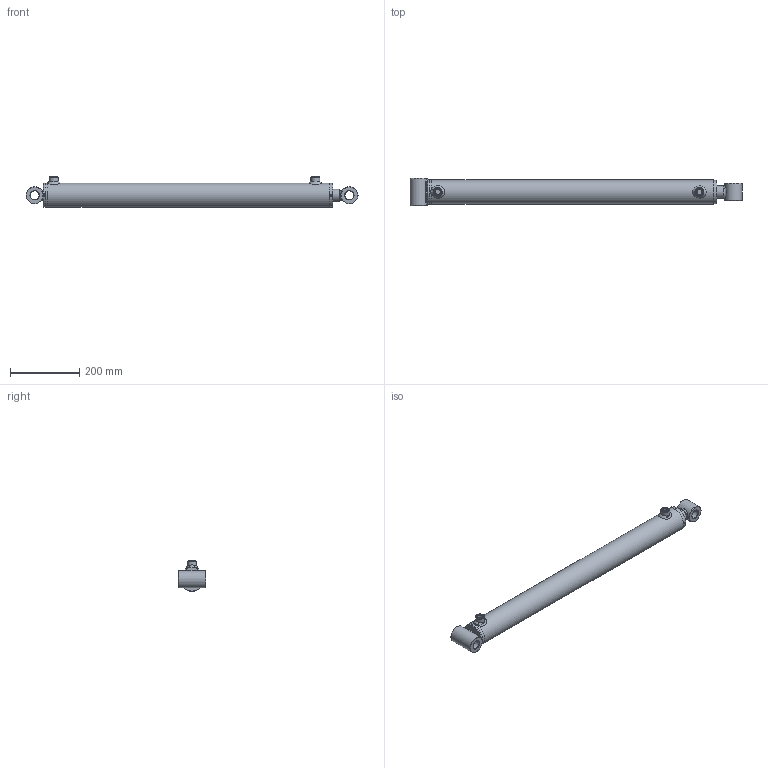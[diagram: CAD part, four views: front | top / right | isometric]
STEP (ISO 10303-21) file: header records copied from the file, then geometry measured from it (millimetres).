
FILE_DESCRIPTION( ( 'Unknown' ), '1' );
FILE_NAME( 'E:/LIBRERIA_3d/CILINDRI/HM2/HM23350700.stp', 'Unknown', ( 'Unknown' ), ( 'Unknown' ), 'PSStep 17.0.49', 'Unknown', ' ' );
FILE_SCHEMA( ( 'AUTOMOTIVE_DESIGN { 1 0 10303 214 1 1 1 1 }' ) );
Length unit declared in the file: millimetre
Products named in the file (26): CG07006035; STL3500700-oa6; Saldatura d'angolo 1-oa4; MAT_PRIMA_TUBO_FT07006000-oa5; CBSC220600; CT00060020; HM03350700; Saldatura con preparazione 1-oa2; Saldatura d'angolo 1-oa3; CF00060070; CBS0600000; CDA0002015; APG0600000; SBL3530700; Assem1; CB25050050; CB25050080; Saldatura d'angolo 1-oa0; Saldatura d'angolo 2-oa1
Assembly tree (18 placements, depth 4):
  Saldatura d'angolo 1-oa4
  Saldatura d'angolo 1-oa4
  Saldatura d'angolo 1-oa3
  Saldatura d'angolo 1-oa3
  Assem1
    CB25050050
    CB25050080
    HM03350700
      Saldatura con preparazione 1-oa2
      Saldatura con preparazione 1-oa2
      CF00060070
      CBS0600000
      CDA0002015
      APG0600000  x2
      SBL3530700
      CT00060020
        CT00060020
      STL3500700-oa6
        MAT_PRIMA_TUBO_FT07006000-oa5
        CBSC220600
      CG07006035
        CG07006035
Bounding box: 960 x 80 x 89 mm (x, y, z)
Volume: 2053699.3 mm3; surface area: 551972.3 mm2
Topology: 22 solids, 22 shells, 290 faces, 600 edges, 361 vertices
Faces by surface type: plane 74, bspline 74, cylinder 63, cone 41, torus 38
Full cylindrical faces by diameter (mm): 4.25 x1, 5 x2, 6 x2, 7 x2, 14.95 x2, 16 x2, 16.6 x2, 19.4 x1, 20 x5, 22 x2, 24.5 x1, 25.25 x2, 26 x4, 30 x1, 35 x4, 37 x1, 38 x1, 43.6 x1, 44 x1, 45 x1, 50 x2, 55 x1, 55.39 x2, 58.65 x2, 59.9 x1, 60 x1, 60.3 x1, 60.5 x1, 60.6 x1, 61 x1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
Entity records: 17552 total; most frequent: CARTESIAN_POINT 10519, DIRECTION 862, ORIENTED_EDGE 798, EDGE_LOOP 460, AXIS2_PLACEMENT_3D 413, EDGE_CURVE 399, FACE_OUTER_BOUND 375, VERTEX_POINT 306
